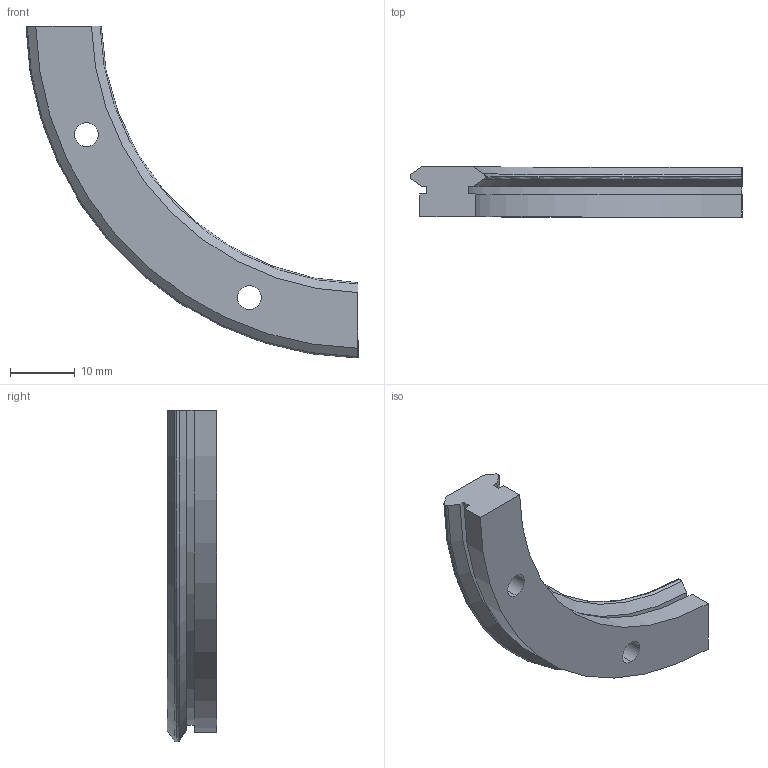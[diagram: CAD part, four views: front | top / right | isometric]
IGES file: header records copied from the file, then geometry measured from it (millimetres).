
Start section: 3D InterOp IGES (v. 2020 1.0.1), Spatial Corp. Copyright (c) 1999-2017.
Global section: file name: r12_93_r90.igs; native system: Spatial Corp.; preprocessor: 3D InterOp ACIS/IGES; author: TraceParts; organization: TraceParts S.A.; date: 20220624.022434; units: millimetre
Bounding box: 51.3 x 7.7 x 51.3 mm (x, y, z)
Surface area: 3121.7 mm2 (no closed solid volume)
Topology: 0 solids, 0 shells, 30 faces, 164 edges, 164 vertices
Faces by surface type: revolution 20, extrusion 10
